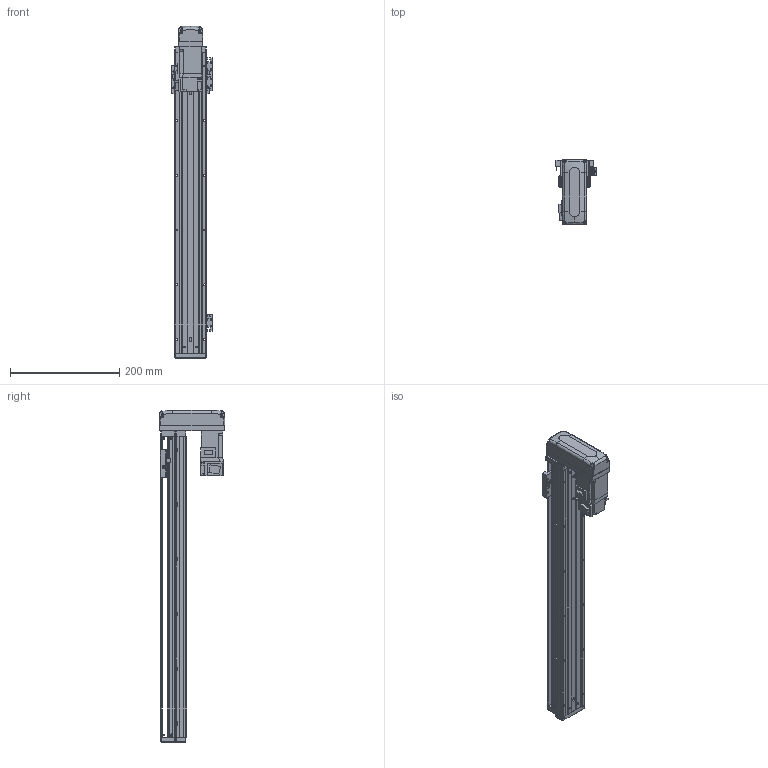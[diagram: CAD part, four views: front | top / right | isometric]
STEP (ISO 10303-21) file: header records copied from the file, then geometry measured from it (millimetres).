
FILE_DESCRIPTION (( 'STEP AP203' ), '1' );
FILE_NAME ('KTHA50-450-BM-M10-C4L.step', '2022-03-19T07:11:34', ( '微软用户' ), ( '微软中国' ), 'SwSTEP 2.0', 'SolidWorks 2020', '' );
FILE_SCHEMA (( 'CONFIG_CONTROL_DESIGN' ));
Length unit declared in the file: millimetre
Products named in the file (18): GBT77-2000 M3×3; HG-KR13（三菱）; KTHA50-001_550; GBT 70.1-M3℅6; CTHA50-015-2_CTHA60-015-2; KTHA50-002; CTHA60-017; CTHA60-033; KTHA50-004; GBT 70.1-M4×12; GBT 70.1-M3×15; KTHA50-005; CTHA60-016; KTHA50-450-BM-M10-C4L; GB¨uT 70.2-M3¡Á6_M3¡Á6; CTHA60-021; EE_SX911P_R; GBT 70.3-M3℅6
Assembly tree (53 placements, depth 2):
  KTHA50-450-BM-M10-C4L
    KTHA50-001_550
    KTHA50-002
    KTHA50-004
    KTHA50-005
    GB¨uT 70.2-M3¡Á6_M3¡Á6  x6
    EE_SX911P_R  x3
    GBT77-2000 M3×3  x6
    GBT 70.1-M3℅6  x6
    CTHA60-017  x3
    GBT 70.1-M4×12  x10
    CTHA60-016  x2
    CTHA60-021  x2
    GBT 70.3-M3℅6  x4
    HG-KR13（三菱）
    CTHA50-015-2_CTHA60-015-2
    CTHA60-033
    GBT 70.1-M3×15  x4
Bounding box: 75.22 x 120 x 607 mm (x, y, z)
Volume: 1264752.9 mm3; surface area: 310136.5 mm2
Topology: 56 solids, 56 shells, 2263 faces, 5351 edges, 3280 vertices
Faces by surface type: plane 1264, cylinder 550, cone 307, torus 100, bspline 26, sphere 16
Entity records: 38235 total; most frequent: CARTESIAN_POINT 7234, DIRECTION 5965, ORIENTED_EDGE 5714, EDGE_CURVE 2857, AXIS2_PLACEMENT_3D 2027, VECTOR 1911, LINE 1911, VERTEX_POINT 1794
